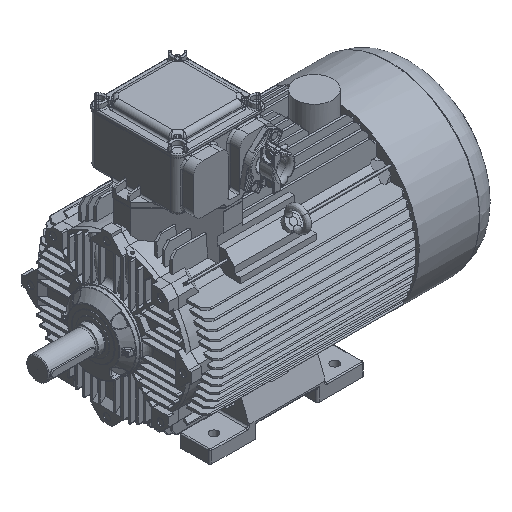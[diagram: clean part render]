
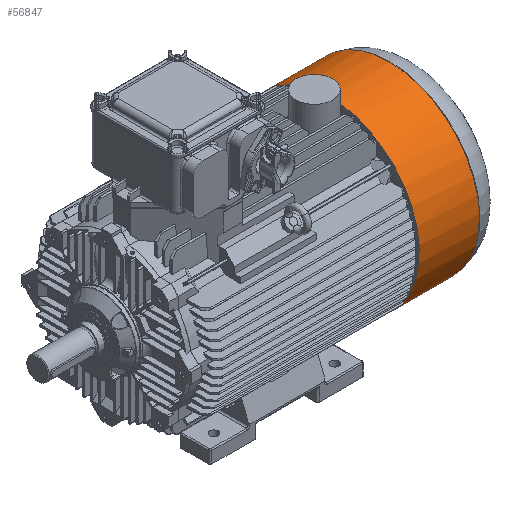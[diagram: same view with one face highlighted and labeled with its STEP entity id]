
A CAD part, isometric view. The second image highlights one B-rep face of the part: STEP entity #56847.
In plain terms, the highlighted cylindrical face has radius 260 mm (diameter 520 mm), a partial arc.
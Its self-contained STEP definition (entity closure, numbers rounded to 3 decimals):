
#730=B_SPLINE_CURVE_WITH_KNOTS('',3,(#76720,#76721,#76722,#76723,#76724,
#76725,#76726,#76727,#76728,#76729,#76730,#76731),.UNSPECIFIED.,.F.,.F.,
(4,1,1,1,1,1,1,1,1,4),(0.,0.008,0.016,0.02,
0.024,0.032,0.04,0.048,
0.056,0.064),.UNSPECIFIED.);
#1833=CYLINDRICAL_SURFACE('',#59510,260.);
#2677=CIRCLE('',#59419,260.);
#2718=CIRCLE('',#59463,260.);
#2721=CIRCLE('',#59466,260.);
#5001=ORIENTED_EDGE('',*,*,#17309,.T.);
#5002=ORIENTED_EDGE('',*,*,#17173,.F.);
#5003=ORIENTED_EDGE('',*,*,#17310,.T.);
#5004=ORIENTED_EDGE('',*,*,#17177,.F.);
#5005=ORIENTED_EDGE('',*,*,#17311,.T.);
#5006=ORIENTED_EDGE('',*,*,#17064,.T.);
#17064=EDGE_CURVE('',#23204,#23203,#2677,.T.);
#17173=EDGE_CURVE('',#23310,#23311,#2718,.T.);
#17177=EDGE_CURVE('',#23314,#23315,#2721,.T.);
#17309=EDGE_CURVE('',#23203,#23311,#27215,.T.);
#17310=EDGE_CURVE('',#23310,#23315,#730,.T.);
#17311=EDGE_CURVE('',#23314,#23204,#27216,.F.);
#23203=VERTEX_POINT('',#76196);
#23204=VERTEX_POINT('',#76198);
#23310=VERTEX_POINT('',#76446);
#23311=VERTEX_POINT('',#76448);
#23314=VERTEX_POINT('',#76454);
#23315=VERTEX_POINT('',#76456);
#27215=LINE('',#76719,#30376);
#27216=LINE('',#76732,#30377);
#30376=VECTOR('',#64433,1000.);
#30377=VECTOR('',#64434,1000.);
#33331=EDGE_LOOP('',(#5001,#5002,#5003,#5004,#5005,#5006));
#35964=FACE_BOUND('',#33331,.T.);
#56847=ADVANCED_FACE('',(#35964),#1833,.T.);
#59419=AXIS2_PLACEMENT_3D('',#76197,#64093,#64094);
#59463=AXIS2_PLACEMENT_3D('',#76447,#64248,#64249);
#59466=AXIS2_PLACEMENT_3D('',#76455,#64255,#64256);
#59510=AXIS2_PLACEMENT_3D('',#76718,#64431,#64432);
#64093=DIRECTION('',(-1.,0.,0.));
#64094=DIRECTION('',(0.,0.,1.));
#64248=DIRECTION('',(-1.,0.,0.));
#64249=DIRECTION('',(0.,0.,1.));
#64255=DIRECTION('',(-1.,0.,0.));
#64256=DIRECTION('',(0.,0.,1.));
#64431=DIRECTION('',(-1.,0.,0.));
#64432=DIRECTION('',(0.,0.,1.));
#64433=DIRECTION('',(-1.,0.,0.));
#64434=DIRECTION('',(-1.,0.,0.));
#76196=CARTESIAN_POINT('',(789.503,104.77,-237.847));
#76197=CARTESIAN_POINT('',(789.503,0.,0.109));
#76198=CARTESIAN_POINT('',(789.503,-104.77,-237.847));
#76446=CARTESIAN_POINT('',(614.503,30.274,258.341));
#76447=CARTESIAN_POINT('',(614.503,0.,0.109));
#76448=CARTESIAN_POINT('',(614.503,104.77,-237.847));
#76454=CARTESIAN_POINT('',(614.503,-104.77,-237.847));
#76455=CARTESIAN_POINT('',(614.503,0.,0.109));
#76456=CARTESIAN_POINT('',(614.503,-30.274,258.341));
#76718=CARTESIAN_POINT('',(-67.223,0.,0.109));
#76719=CARTESIAN_POINT('',(-67.223,104.77,-237.847));
#76720=CARTESIAN_POINT('',(614.503,30.274,258.341));
#76721=CARTESIAN_POINT('',(616.045,28.057,258.601));
#76722=CARTESIAN_POINT('',(618.756,23.444,259.084));
#76723=CARTESIAN_POINT('',(621.245,17.242,259.56));
#76724=CARTESIAN_POINT('',(622.675,12.006,259.842));
#76725=CARTESIAN_POINT('',(623.688,6.742,260.045));
#76726=CARTESIAN_POINT('',(624.207,0.074,260.152));
#76727=CARTESIAN_POINT('',(623.589,-8.072,260.025));
#76728=CARTESIAN_POINT('',(621.784,-15.862,259.663));
#76729=CARTESIAN_POINT('',(618.772,-23.427,259.086));
#76730=CARTESIAN_POINT('',(616.045,-28.057,258.601));
#76731=CARTESIAN_POINT('',(614.503,-30.274,258.341));
#76732=CARTESIAN_POINT('',(-67.223,-104.77,-237.847));
